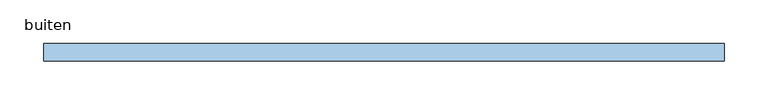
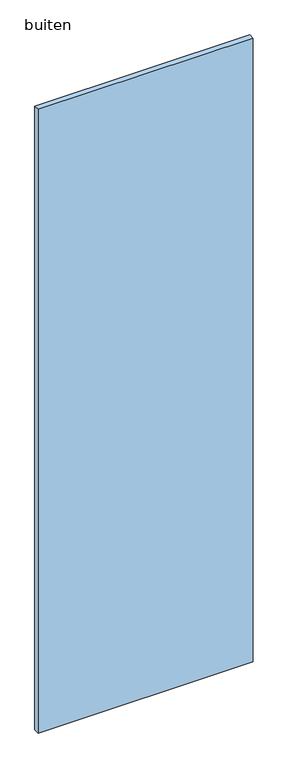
"""IFC4 building model written with IfcOpenShell, lengths in millimetres: window geometry, RBS_3-_WI_pui_glas_SH : buiten."""

from ifc_helpers import new_model, si_unit, origin, origin_with_axes, place, context, project, spatial, polyline, outline, extrude, source, transform, mapped, element, save


def buiten_00c69137(model_context):
    return source(origin(), model_context, "Body", "SweptSolid", [
        extrude(outline(polyline([(390.0, -10.0), (-390.0, -10.0), (-390.0, 10.0), (390.0, 10.0), (390.0, -10.0)])), origin_with_axes(), (0.0, 0.0, 1.0), 2390.0),
    ])


if __name__ == "__main__":
    model = new_model("IFC4")
    model_context = context("Model", 3, world=origin())
    ifc_project = project(units=[si_unit("LENGTHUNIT", "METRE", prefix="MILLI")], contexts=[model_context])
    site = spatial("IfcSite", under=ifc_project)
    building = spatial("IfcBuilding", under=site)
    placement = place(None, origin())
    buiten_shape = buiten_00c69137(model_context)
    element("IfcWindow", 1, ObjectType="RBS_3-_WI_pui_glas_SH : buiten", at=placement, inside=building, context=model_context, shape_type="MappedRepresentation", body=[
        mapped(buiten_shape, transform((0.0, 0.0, 0.0), x_axis=(1.0, 0.0, 0.0), y_axis=(0.0, 1.0, 0.0), z_axis=(0.0, 0.0, 1.0))),
    ])
    save(model, "model.ifc")
